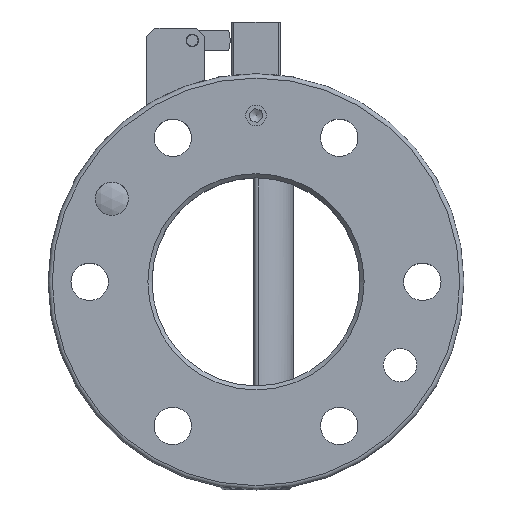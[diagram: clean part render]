
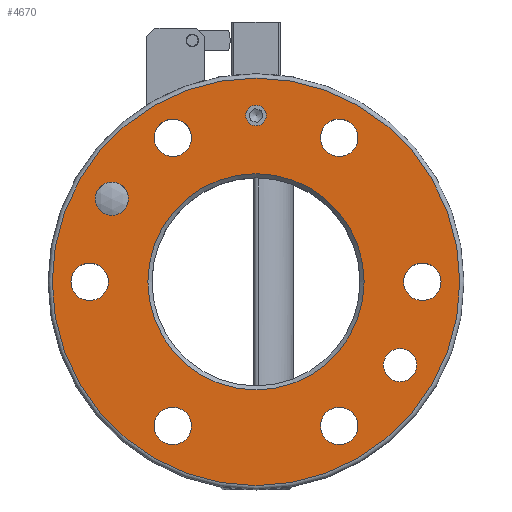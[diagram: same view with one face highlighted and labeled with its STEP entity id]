
A CAD part, top view. The second image highlights one B-rep face of the part: STEP entity #4670.
In plain terms, the highlighted planar face has unit normal (0, 0, 1).
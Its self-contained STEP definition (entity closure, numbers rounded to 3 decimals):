
#2763=CARTESIAN_POINT('',(2.459,40.0,0.0));
#2764=VERTEX_POINT('',#2763);
#2765=CARTESIAN_POINT('',(0.0,40.0,0.0));
#2766=DIRECTION('',(0.0,0.0,-1.0));
#2767=DIRECTION('',(1.0,0.0,0.0));
#2768=AXIS2_PLACEMENT_3D('',#2765,#2766,#2767);
#2769=CIRCLE('',#2768,2.459);
#2770=EDGE_CURVE('',#2764,#2764,#2769,.T.);
#4545=CARTESIAN_POINT('',(49.0,0.,0.0));
#4546=VERTEX_POINT('',#4545);
#4547=CARTESIAN_POINT('',(0.0,0.0,0.0));
#4548=DIRECTION('',(0.0,0.0,-1.0));
#4549=DIRECTION('',(-1.0,0.0,0.0));
#4550=AXIS2_PLACEMENT_3D('',#4547,#4548,#4549);
#4551=CIRCLE('',#4550,49.0);
#4552=EDGE_CURVE('',#4546,#4546,#4551,.T.);
#4560=CARTESIAN_POINT('',(0.0,0.0,0.0));
#4561=DIRECTION('',(0.0,0.0,-1.0));
#4562=DIRECTION('',(-1.0,0.0,0.0));
#4563=AXIS2_PLACEMENT_3D('',#4560,#4561,#4562);
#4564=PLANE('',#4563);
#4565=ORIENTED_EDGE('',*,*,#4552,.F.);
#4566=EDGE_LOOP('',(#4565));
#4567=FACE_OUTER_BOUND('',#4566,.T.);
#4568=CARTESIAN_POINT('',(26.0,0.,0.0));
#4569=VERTEX_POINT('',#4568);
#4570=CARTESIAN_POINT('',(0.0,0.0,0.0));
#4571=DIRECTION('',(0.0,0.0,1.0));
#4572=DIRECTION('',(-1.0,0.0,0.0));
#4573=AXIS2_PLACEMENT_3D('',#4570,#4571,#4572);
#4574=CIRCLE('',#4573,26.0);
#4575=EDGE_CURVE('',#4569,#4569,#4574,.T.);
#4576=ORIENTED_EDGE('',*,*,#4575,.F.);
#4577=EDGE_LOOP('',(#4576));
#4578=FACE_BOUND('',#4577,.T.);
#4579=CARTESIAN_POINT('',(-30.641,20.,0.0));
#4580=VERTEX_POINT('',#4579);
#4581=CARTESIAN_POINT('',(-34.641,20.,0.0));
#4582=DIRECTION('',(0.0,0.0,-1.0));
#4583=DIRECTION('',(1.0,0.0,0.0));
#4584=AXIS2_PLACEMENT_3D('',#4581,#4582,#4583);
#4585=CIRCLE('',#4584,4.0);
#4586=EDGE_CURVE('',#4580,#4580,#4585,.T.);
#4587=ORIENTED_EDGE('',*,*,#4586,.T.);
#4588=EDGE_LOOP('',(#4587));
#4589=FACE_BOUND('',#4588,.T.);
#4590=CARTESIAN_POINT('',(38.641,-20.,0.0));
#4591=VERTEX_POINT('',#4590);
#4592=CARTESIAN_POINT('',(34.641,-20.,0.0));
#4593=DIRECTION('',(0.0,0.0,-1.0));
#4594=DIRECTION('',(1.0,0.0,0.0));
#4595=AXIS2_PLACEMENT_3D('',#4592,#4593,#4594);
#4596=CIRCLE('',#4595,4.0);
#4597=EDGE_CURVE('',#4591,#4591,#4596,.T.);
#4598=ORIENTED_EDGE('',*,*,#4597,.T.);
#4599=EDGE_LOOP('',(#4598));
#4600=FACE_BOUND('',#4599,.T.);
#4601=ORIENTED_EDGE('',*,*,#2770,.T.);
#4602=EDGE_LOOP('',(#4601));
#4603=FACE_BOUND('',#4602,.T.);
#4604=CARTESIAN_POINT('',(24.5,-34.641,0.0));
#4605=VERTEX_POINT('',#4604);
#4606=CARTESIAN_POINT('',(20.,-34.641,0.0));
#4607=DIRECTION('',(0.0,0.0,-1.0));
#4608=DIRECTION('',(-1.0,0.0,0.0));
#4609=AXIS2_PLACEMENT_3D('',#4606,#4607,#4608);
#4610=CIRCLE('',#4609,4.5);
#4611=EDGE_CURVE('',#4605,#4605,#4610,.T.);
#4612=ORIENTED_EDGE('',*,*,#4611,.T.);
#4613=EDGE_LOOP('',(#4612));
#4614=FACE_BOUND('',#4613,.T.);
#4615=CARTESIAN_POINT('',(-15.5,-34.641,0.0));
#4616=VERTEX_POINT('',#4615);
#4617=CARTESIAN_POINT('',(-20.,-34.641,0.0));
#4618=DIRECTION('',(0.0,0.0,-1.0));
#4619=DIRECTION('',(-1.0,0.0,0.0));
#4620=AXIS2_PLACEMENT_3D('',#4617,#4618,#4619);
#4621=CIRCLE('',#4620,4.5);
#4622=EDGE_CURVE('',#4616,#4616,#4621,.T.);
#4623=ORIENTED_EDGE('',*,*,#4622,.T.);
#4624=EDGE_LOOP('',(#4623));
#4625=FACE_BOUND('',#4624,.T.);
#4626=CARTESIAN_POINT('',(-35.5,0.,0.0));
#4627=VERTEX_POINT('',#4626);
#4628=CARTESIAN_POINT('',(-40.,0.,0.0));
#4629=DIRECTION('',(0.0,0.0,-1.0));
#4630=DIRECTION('',(-1.0,0.0,0.0));
#4631=AXIS2_PLACEMENT_3D('',#4628,#4629,#4630);
#4632=CIRCLE('',#4631,4.5);
#4633=EDGE_CURVE('',#4627,#4627,#4632,.T.);
#4634=ORIENTED_EDGE('',*,*,#4633,.T.);
#4635=EDGE_LOOP('',(#4634));
#4636=FACE_BOUND('',#4635,.T.);
#4637=CARTESIAN_POINT('',(-15.5,34.641,0.0));
#4638=VERTEX_POINT('',#4637);
#4639=CARTESIAN_POINT('',(-20.,34.641,0.0));
#4640=DIRECTION('',(0.0,0.0,-1.0));
#4641=DIRECTION('',(-1.0,0.0,0.0));
#4642=AXIS2_PLACEMENT_3D('',#4639,#4640,#4641);
#4643=CIRCLE('',#4642,4.5);
#4644=EDGE_CURVE('',#4638,#4638,#4643,.T.);
#4645=ORIENTED_EDGE('',*,*,#4644,.T.);
#4646=EDGE_LOOP('',(#4645));
#4647=FACE_BOUND('',#4646,.T.);
#4648=CARTESIAN_POINT('',(24.5,34.641,0.0));
#4649=VERTEX_POINT('',#4648);
#4650=CARTESIAN_POINT('',(20.,34.641,0.0));
#4651=DIRECTION('',(0.0,0.0,-1.0));
#4652=DIRECTION('',(-1.0,0.0,0.0));
#4653=AXIS2_PLACEMENT_3D('',#4650,#4651,#4652);
#4654=CIRCLE('',#4653,4.5);
#4655=EDGE_CURVE('',#4649,#4649,#4654,.T.);
#4656=ORIENTED_EDGE('',*,*,#4655,.T.);
#4657=EDGE_LOOP('',(#4656));
#4658=FACE_BOUND('',#4657,.T.);
#4659=CARTESIAN_POINT('',(44.5,0.,0.0));
#4660=VERTEX_POINT('',#4659);
#4661=CARTESIAN_POINT('',(40.,0.,0.0));
#4662=DIRECTION('',(0.0,0.0,-1.0));
#4663=DIRECTION('',(-1.0,0.0,0.0));
#4664=AXIS2_PLACEMENT_3D('',#4661,#4662,#4663);
#4665=CIRCLE('',#4664,4.5);
#4666=EDGE_CURVE('',#4660,#4660,#4665,.T.);
#4667=ORIENTED_EDGE('',*,*,#4666,.T.);
#4668=EDGE_LOOP('',(#4667));
#4669=FACE_BOUND('',#4668,.T.);
#4670=ADVANCED_FACE('',(#4567,#4578,#4589,#4600,#4603,#4614,#4625,#4636,#4647,#4658,#4669),#4564,.F.);
